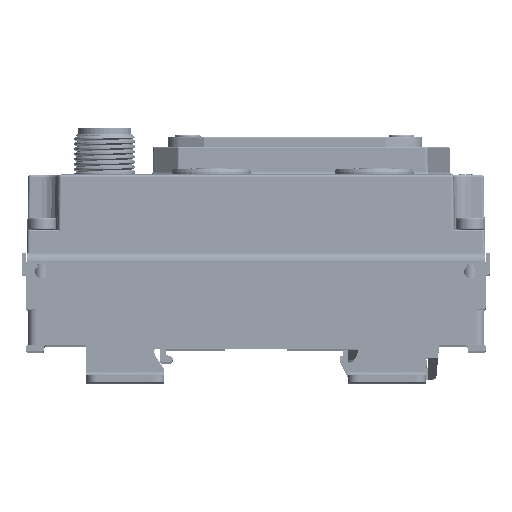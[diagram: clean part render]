
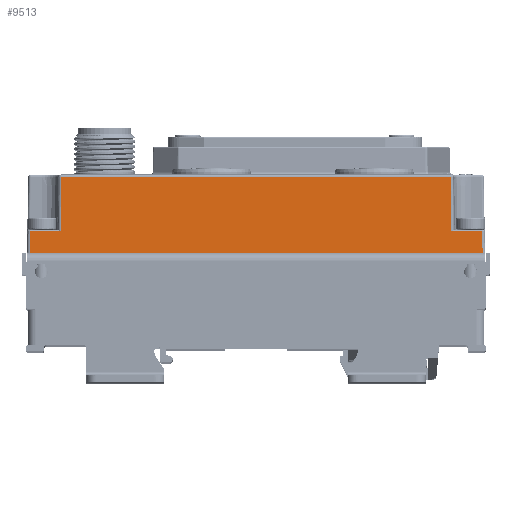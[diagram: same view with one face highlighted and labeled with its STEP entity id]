
A CAD part, top view. The second image highlights one B-rep face of the part: STEP entity #9513.
In plain terms, the highlighted planar face has unit normal (0, 0.018, 1).
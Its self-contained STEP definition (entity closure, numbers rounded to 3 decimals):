
#2397 = VECTOR ( 'NONE', #177092, 1000. ) ;
#9513 = ADVANCED_FACE ( 'NONE', ( #429825 ), #468403, .F. ) ;
#21636 = VECTOR ( 'NONE', #413150, 1000. ) ;
#22665 = LINE ( 'NONE', #563646, #21636 ) ;
#25264 = VERTEX_POINT ( 'NONE', #90861 ) ;
#34901 = VERTEX_POINT ( 'NONE', #162297 ) ;
#36166 = DIRECTION ( 'NONE',  ( 0., -0.017, -1. ) ) ;
#39877 = ORIENTED_EDGE ( 'NONE', *, *, #335497, .F. ) ;
#46805 = CARTESIAN_POINT ( 'NONE',  ( 43.355, 16.3, 55.25 ) ) ;
#48478 = EDGE_CURVE ( 'NONE', #544144, #631845, #22665, .T. ) ;
#52321 = DIRECTION ( 'NONE',  ( 0.017, -1., 0.017 ) ) ;
#53769 = VERTEX_POINT ( 'NONE', #452703 ) ;
#60086 = ORIENTED_EDGE ( 'NONE', *, *, #573958, .F. ) ;
#63189 = CARTESIAN_POINT ( 'NONE',  ( -38.386, 22.305, 55.145 ) ) ;
#65114 = ORIENTED_EDGE ( 'NONE', *, *, #546546, .T. ) ;
#66550 = CARTESIAN_POINT ( 'NONE',  ( 38.42, 22.305, 55.145 ) ) ;
#78949 = LINE ( 'NONE', #601019, #323019 ) ;
#80296 = ORIENTED_EDGE ( 'NONE', *, *, #276273, .F. ) ;
#88827 = ORIENTED_EDGE ( 'NONE', *, *, #48478, .F. ) ;
#90861 = CARTESIAN_POINT ( 'NONE',  ( -44.436, 22.305, 55.145 ) ) ;
#95419 = DIRECTION ( 'NONE',  ( 1., 0., 0. ) ) ;
#111986 = VERTEX_POINT ( 'NONE', #63189 ) ;
#120474 = VECTOR ( 'NONE', #52321, 1000. ) ;
#120668 = CARTESIAN_POINT ( 'NONE',  ( 46.569, 16.3, 55.25 ) ) ;
#124244 = CARTESIAN_POINT ( 'NONE',  ( -38.386, 22.305, 55.145 ) ) ;
#125754 = DIRECTION ( 'NONE',  ( 1., 0., 0. ) ) ;
#145288 = LINE ( 'NONE', #244421, #120474 ) ;
#152327 = VECTOR ( 'NONE', #523966, 1000. ) ;
#154162 = ORIENTED_EDGE ( 'NONE', *, *, #251830, .F. ) ;
#154924 = CARTESIAN_POINT ( 'NONE',  ( 38.326, 33.009, 54.958 ) ) ;
#162297 = CARTESIAN_POINT ( 'NONE',  ( 43.44, 16.3, 55.25 ) ) ;
#168678 = LINE ( 'NONE', #120668, #237130 ) ;
#172240 = VECTOR ( 'NONE', #125754, 1000. ) ;
#174050 = EDGE_CURVE ( 'NONE', #546432, #543126, #168678, .T. ) ;
#177092 = DIRECTION ( 'NONE',  ( -1., 0., 0. ) ) ;
#178505 = LINE ( 'NONE', #373751, #313596 ) ;
#183282 = CARTESIAN_POINT ( 'NONE',  ( 46.569, 22.305, 55.145 ) ) ;
#183436 = DIRECTION ( 'NONE',  ( 0., -1., 0.017 ) ) ;
#200989 = LINE ( 'NONE', #396194, #395331 ) ;
#210388 = DIRECTION ( 'NONE',  ( -1., 0., 0. ) ) ;
#219596 = VERTEX_POINT ( 'NONE', #258233 ) ;
#220586 = EDGE_CURVE ( 'NONE', #307604, #360720, #200989, .T. ) ;
#232239 = CARTESIAN_POINT ( 'NONE',  ( 46.569, 22.305, 55.145 ) ) ;
#237130 = VECTOR ( 'NONE', #210388, 1000. ) ;
#244421 = CARTESIAN_POINT ( 'NONE',  ( 44.47, 22.305, 55.145 ) ) ;
#245202 = LINE ( 'NONE', #46805, #152327 ) ;
#251830 = EDGE_CURVE ( 'NONE', #219596, #53769, #145288, .T. ) ;
#254402 = ORIENTED_EDGE ( 'NONE', *, *, #406874, .F. ) ;
#256381 = CARTESIAN_POINT ( 'NONE',  ( -44.541, 16.3, 55.25 ) ) ;
#258233 = CARTESIAN_POINT ( 'NONE',  ( 44.47, 22.305, 55.145 ) ) ;
#262591 = CARTESIAN_POINT ( 'NONE',  ( -40.9, 16.3, 55.25 ) ) ;
#263225 = CARTESIAN_POINT ( 'NONE',  ( -38.292, 33.009, 54.958 ) ) ;
#266534 = ORIENTED_EDGE ( 'NONE', *, *, #220586, .T. ) ;
#273113 = LINE ( 'NONE', #468402, #2397 ) ;
#276273 = EDGE_CURVE ( 'NONE', #543126, #360720, #273113, .T. ) ;
#282782 = VECTOR ( 'NONE', #582467, 1000. ) ;
#307604 = VERTEX_POINT ( 'NONE', #256381 ) ;
#313596 = VECTOR ( 'NONE', #331977, 1000. ) ;
#323019 = VECTOR ( 'NONE', #552903, 1000. ) ;
#323509 = EDGE_LOOP ( 'NONE', ( #154162, #432855, #88827, #615629, #562648, #39877, #254402, #266534, #80296, #455066, #60086, #65114 ) ) ;
#327240 = LINE ( 'NONE', #183282, #172240 ) ;
#331977 = DIRECTION ( 'NONE',  ( -1., 0., 0. ) ) ;
#333326 = EDGE_CURVE ( 'NONE', #111986, #370693, #454048, .T. ) ;
#335497 = EDGE_CURVE ( 'NONE', #25264, #111986, #581119, .T. ) ;
#357172 = LINE ( 'NONE', #492611, #282782 ) ;
#358004 = DIRECTION ( 'NONE',  ( 0.009, 1., -0.017 ) ) ;
#360720 = VERTEX_POINT ( 'NONE', #592696 ) ;
#370693 = VERTEX_POINT ( 'NONE', #263225 ) ;
#373751 = CARTESIAN_POINT ( 'NONE',  ( 46.569, 16.3, 55.25 ) ) ;
#395331 = VECTOR ( 'NONE', #95419, 1000. ) ;
#396194 = CARTESIAN_POINT ( 'NONE',  ( -45.235, 16.3, 55.25 ) ) ;
#396994 = EDGE_CURVE ( 'NONE', #631845, #219596, #327240, .T. ) ;
#406874 = EDGE_CURVE ( 'NONE', #307604, #25264, #78949, .T. ) ;
#413150 = DIRECTION ( 'NONE',  ( 0.009, -1., 0.017 ) ) ;
#429825 = FACE_OUTER_BOUND ( 'NONE', #323509, .T. ) ;
#432855 = ORIENTED_EDGE ( 'NONE', *, *, #396994, .F. ) ;
#452703 = CARTESIAN_POINT ( 'NONE',  ( 44.575, 16.3, 55.25 ) ) ;
#454048 = LINE ( 'NONE', #124244, #517396 ) ;
#455066 = ORIENTED_EDGE ( 'NONE', *, *, #174050, .F. ) ;
#467993 = VECTOR ( 'NONE', #526721, 1000. ) ;
#468402 = CARTESIAN_POINT ( 'NONE',  ( 46.569, 16.3, 55.25 ) ) ;
#468403 = PLANE ( 'NONE',  #496964 ) ;
#492611 = CARTESIAN_POINT ( 'NONE',  ( 46.569, 33.009, 54.958 ) ) ;
#496964 = AXIS2_PLACEMENT_3D ( 'NONE', #573990, #36166, #183436 ) ;
#499358 = EDGE_CURVE ( 'NONE', #370693, #544144, #357172, .T. ) ;
#517396 = VECTOR ( 'NONE', #358004, 1000. ) ;
#523966 = DIRECTION ( 'NONE',  ( 1., 0., 0. ) ) ;
#526721 = DIRECTION ( 'NONE',  ( 1., 0., 0. ) ) ;
#543126 = VERTEX_POINT ( 'NONE', #262591 ) ;
#544144 = VERTEX_POINT ( 'NONE', #154924 ) ;
#546432 = VERTEX_POINT ( 'NONE', #562590 ) ;
#546546 = EDGE_CURVE ( 'NONE', #34901, #53769, #245202, .T. ) ;
#552903 = DIRECTION ( 'NONE',  ( 0.017, 1., -0.017 ) ) ;
#562590 = CARTESIAN_POINT ( 'NONE',  ( 40.9, 16.3, 55.25 ) ) ;
#562648 = ORIENTED_EDGE ( 'NONE', *, *, #333326, .F. ) ;
#563646 = CARTESIAN_POINT ( 'NONE',  ( 38.326, 33.009, 54.958 ) ) ;
#573958 = EDGE_CURVE ( 'NONE', #34901, #546432, #178505, .T. ) ;
#573990 = CARTESIAN_POINT ( 'NONE',  ( 46.569, 5.3, 55.442 ) ) ;
#581119 = LINE ( 'NONE', #232239, #467993 ) ;
#582467 = DIRECTION ( 'NONE',  ( 1., 0., 0. ) ) ;
#592696 = CARTESIAN_POINT ( 'NONE',  ( -43.44, 16.3, 55.25 ) ) ;
#601019 = CARTESIAN_POINT ( 'NONE',  ( -44.541, 16.3, 55.25 ) ) ;
#615629 = ORIENTED_EDGE ( 'NONE', *, *, #499358, .F. ) ;
#631845 = VERTEX_POINT ( 'NONE', #66550 ) ;
